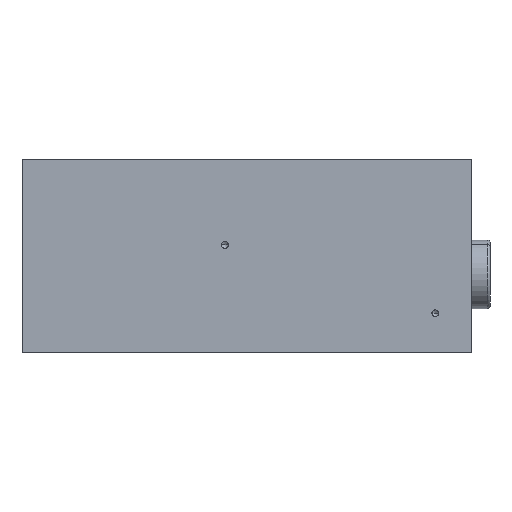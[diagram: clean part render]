
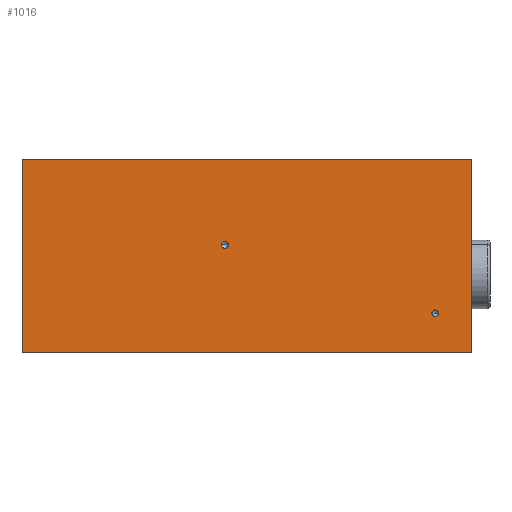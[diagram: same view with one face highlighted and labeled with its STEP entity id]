
A CAD part, top view. The second image highlights one B-rep face of the part: STEP entity #1016.
In plain terms, the highlighted planar face has unit normal (0, 0, 1).
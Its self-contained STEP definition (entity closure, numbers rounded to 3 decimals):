
#283 = DIRECTION ( 'NONE',  ( 0., -1., 0. ) ) ;
#298 = PLANE ( 'NONE',  #1330 ) ;
#331 = ORIENTED_EDGE ( 'NONE', *, *, #5114, .F. ) ;
#342 = ORIENTED_EDGE ( 'NONE', *, *, #4192, .F. ) ;
#417 = CARTESIAN_POINT ( 'NONE',  ( 0., -19.75, 15. ) ) ;
#642 = CARTESIAN_POINT ( 'NONE',  ( 85.2, -11.75, 15. ) ) ;
#681 = EDGE_LOOP ( 'NONE', ( #1175, #342 ) ) ;
#859 = CARTESIAN_POINT ( 'NONE',  ( 92., -19.75, 15. ) ) ;
#970 = DIRECTION ( 'NONE',  ( -1., 0., 0. ) ) ;
#1016 = ADVANCED_FACE ( 'NONE', ( #1627, #7318, #1618 ), #298, .F. ) ;
#1175 = ORIENTED_EDGE ( 'NONE', *, *, #5107, .F. ) ;
#1330 = AXIS2_PLACEMENT_3D ( 'NONE', #859, #9387, #970 ) ;
#1618 = FACE_OUTER_BOUND ( 'NONE', #6527, .T. ) ;
#1627 = FACE_BOUND ( 'NONE', #681, .T. ) ;
#2236 = ORIENTED_EDGE ( 'NONE', *, *, #4899, .T. ) ;
#2247 = CIRCLE ( 'NONE', #6822, 0.7 ) ;
#2496 = LINE ( 'NONE', #4711, #8036 ) ;
#2572 = CIRCLE ( 'NONE', #5738, 0.7 ) ;
#2605 = CIRCLE ( 'NONE', #6871, 0.7 ) ;
#3521 = ORIENTED_EDGE ( 'NONE', *, *, #5115, .F. ) ;
#3650 = VERTEX_POINT ( 'NONE', #7262 ) ;
#3843 = VERTEX_POINT ( 'NONE', #4645 ) ;
#3991 = DIRECTION ( 'NONE',  ( 0., -1., 0. ) ) ;
#4048 = CARTESIAN_POINT ( 'NONE',  ( 92., -19.75, 15. ) ) ;
#4137 = EDGE_CURVE ( 'NONE', #4964, #9102, #2605, .T. ) ;
#4192 = EDGE_CURVE ( 'NONE', #6432, #5888, #2247, .T. ) ;
#4426 = DIRECTION ( 'NONE',  ( 1., 0., 0. ) ) ;
#4503 = CARTESIAN_POINT ( 'NONE',  ( 40.8, 2.25, 15. ) ) ;
#4566 = DIRECTION ( 'NONE',  ( 0., 0., 1. ) ) ;
#4576 = CARTESIAN_POINT ( 'NONE',  ( 84.5, -11.75, 15. ) ) ;
#4645 = CARTESIAN_POINT ( 'NONE',  ( 0., -19.75, 15. ) ) ;
#4658 = DIRECTION ( 'NONE',  ( 1., 0., 0. ) ) ;
#4666 = DIRECTION ( 'NONE',  ( 0., 0., 1. ) ) ;
#4672 = CARTESIAN_POINT ( 'NONE',  ( 41.5, 2.25, 15. ) ) ;
#4711 = CARTESIAN_POINT ( 'NONE',  ( 92., -19.75, 15. ) ) ;
#4740 = DIRECTION ( 'NONE',  ( -1., 0., 0. ) ) ;
#4899 = EDGE_CURVE ( 'NONE', #8537, #3843, #7533, .T. ) ;
#4964 = VERTEX_POINT ( 'NONE', #7474 ) ;
#5061 = EDGE_CURVE ( 'NONE', #3650, #8537, #8527, .T. ) ;
#5107 = EDGE_CURVE ( 'NONE', #5888, #6432, #2572, .T. ) ;
#5114 = EDGE_CURVE ( 'NONE', #9102, #4964, #8777, .T. ) ;
#5115 = EDGE_CURVE ( 'NONE', #8069, #3843, #2496, .T. ) ;
#5118 = EDGE_CURVE ( 'NONE', #3650, #8069, #7863, .T. ) ;
#5534 = CARTESIAN_POINT ( 'NONE',  ( 92., -19.75, 15. ) ) ;
#5737 = AXIS2_PLACEMENT_3D ( 'NONE', #4576, #4566, #4426 ) ;
#5738 = AXIS2_PLACEMENT_3D ( 'NONE', #4672, #4666, #4658 ) ;
#5853 = CARTESIAN_POINT ( 'NONE',  ( 92., 19.75, 15. ) ) ;
#5888 = VERTEX_POINT ( 'NONE', #9428 ) ;
#5949 = DIRECTION ( 'NONE',  ( -1., 0., 0. ) ) ;
#6432 = VERTEX_POINT ( 'NONE', #4503 ) ;
#6527 = EDGE_LOOP ( 'NONE', ( #2236, #3521, #6811, #6963 ) ) ;
#6811 = ORIENTED_EDGE ( 'NONE', *, *, #5118, .F. ) ;
#6822 = AXIS2_PLACEMENT_3D ( 'NONE', #8342, #8331, #8305 ) ;
#6871 = AXIS2_PLACEMENT_3D ( 'NONE', #9324, #9305, #9296 ) ;
#6963 = ORIENTED_EDGE ( 'NONE', *, *, #5061, .T. ) ;
#7170 = VECTOR ( 'NONE', #283, 1000. ) ;
#7186 = EDGE_LOOP ( 'NONE', ( #331, #7861 ) ) ;
#7262 = CARTESIAN_POINT ( 'NONE',  ( 92., 19.75, 15. ) ) ;
#7318 = FACE_BOUND ( 'NONE', #7186, .T. ) ;
#7474 = CARTESIAN_POINT ( 'NONE',  ( 83.8, -11.75, 15. ) ) ;
#7533 = LINE ( 'NONE', #417, #7170 ) ;
#7861 = ORIENTED_EDGE ( 'NONE', *, *, #4137, .F. ) ;
#7863 = LINE ( 'NONE', #4048, #8973 ) ;
#7990 = VECTOR ( 'NONE', #5949, 1000. ) ;
#8036 = VECTOR ( 'NONE', #4740, 1000. ) ;
#8069 = VERTEX_POINT ( 'NONE', #5534 ) ;
#8305 = DIRECTION ( 'NONE',  ( 1., 0., 0. ) ) ;
#8331 = DIRECTION ( 'NONE',  ( 0., 0., 1. ) ) ;
#8342 = CARTESIAN_POINT ( 'NONE',  ( 41.5, 2.25, 15. ) ) ;
#8527 = LINE ( 'NONE', #5853, #7990 ) ;
#8537 = VERTEX_POINT ( 'NONE', #9085 ) ;
#8777 = CIRCLE ( 'NONE', #5737, 0.7 ) ;
#8973 = VECTOR ( 'NONE', #3991, 1000. ) ;
#9085 = CARTESIAN_POINT ( 'NONE',  ( 0., 19.75, 15. ) ) ;
#9102 = VERTEX_POINT ( 'NONE', #642 ) ;
#9296 = DIRECTION ( 'NONE',  ( 1., 0., 0. ) ) ;
#9305 = DIRECTION ( 'NONE',  ( 0., 0., 1. ) ) ;
#9324 = CARTESIAN_POINT ( 'NONE',  ( 84.5, -11.75, 15. ) ) ;
#9387 = DIRECTION ( 'NONE',  ( 0., 0., -1. ) ) ;
#9428 = CARTESIAN_POINT ( 'NONE',  ( 42.2, 2.25, 15. ) ) ;
